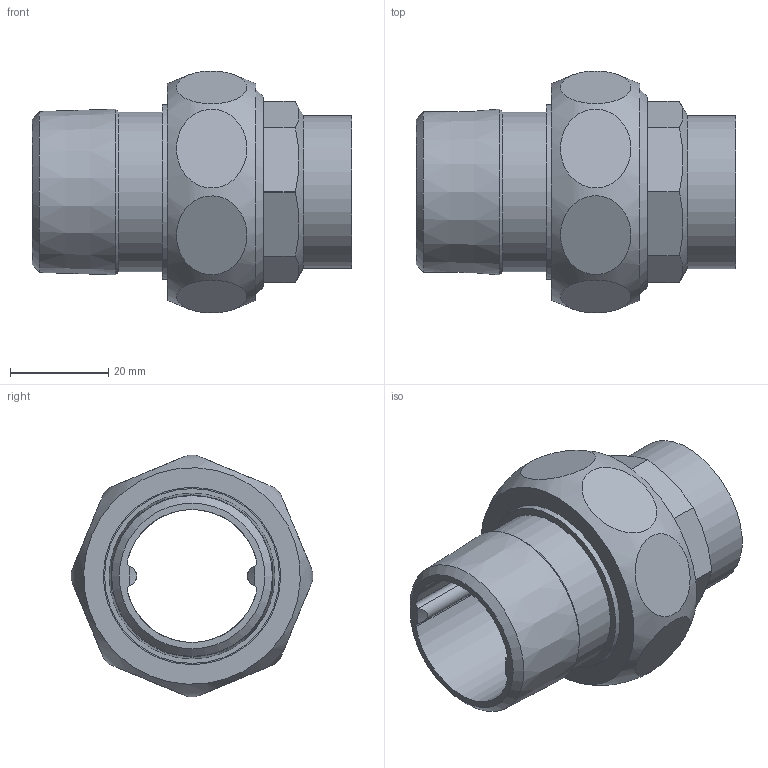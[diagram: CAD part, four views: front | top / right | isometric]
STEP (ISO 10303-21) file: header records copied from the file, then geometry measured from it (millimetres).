
FILE_DESCRIPTION((''),'2;1');
FILE_NAME('\\lg50001\SANHA_Legnica\Engineering\Public\RYSUNKI\SANHA POLSKA\4331g\step\14331g_28-1(2).stp','2013-03-21T14:32:42',('pajchrowski'),(''),'Autodesk Inventor 2009','Autodesk Inventor 2009','');
FILE_SCHEMA(('AUTOMOTIVE_DESIGN { 1 0 10303 214 1 1 1 1 }'));
Length unit declared in the file: millimetre
Products named in the file (5): 14331g_28-1(2); 14371_1-114(1); 14374_114(1); 1DCU114; 14370_28-114(2)
Assembly tree (4 placements, depth 2):
  14331g_28-1(2)
    14371_1-114(1)
    14374_114(1)
    1DCU114
    14370_28-114(2)
Bounding box: 65 x 49.15 x 49.15 mm (x, y, z)
Volume: 34709.7 mm3; surface area: 22220.3 mm2
Topology: 4 solids, 4 shells, 68 faces, 148 edges, 100 vertices
Faces by surface type: plane 29, cylinder 27, cone 11, bspline 1
Full cylindrical faces by diameter (mm): 27 x2, 28 x1, 31.2 x1, 32.5 x1, 35.5 x1, 36 x1, 38 x1, 38.5 x1, 38.952 x1, 41.91 x1
Entity records: 3346 total; most frequent: CARTESIAN_POINT 1783, DIRECTION 308, ORIENTED_EDGE 252, AXIS2_PLACEMENT_3D 138, EDGE_CURVE 126, EDGE_LOOP 108, VERTEX_POINT 98, FACE_OUTER_BOUND 68
